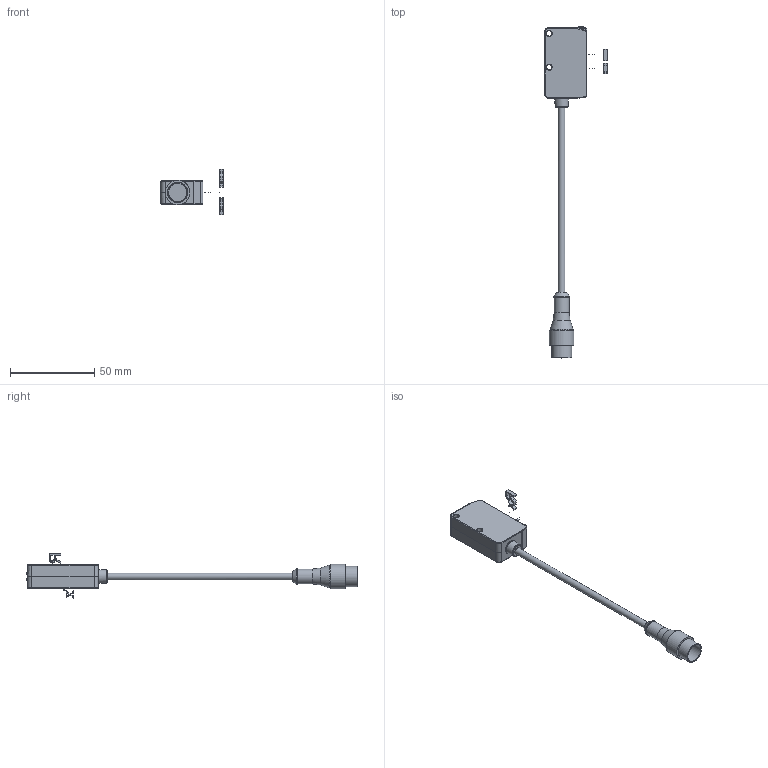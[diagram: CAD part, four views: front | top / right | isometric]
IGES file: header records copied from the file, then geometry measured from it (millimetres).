
Start section: JAMA-IS VERSION  1.0
Global section: file name: D:\CS\IDF\TESTPCB\DSD-0204.igs; native system: NX V12.0; preprocessor: SIEMENS PLM Software NX 12.0; date: 200923.140722; units: millimetre
Bounding box: 37 x 196.8 x 26.68 mm (x, y, z)
Surface area: 8200.9 mm2 (no closed solid volume)
Topology: 0 solids, 0 shells, 454 faces, 3254 edges, 3185 vertices
Faces by surface type: bspline 454
